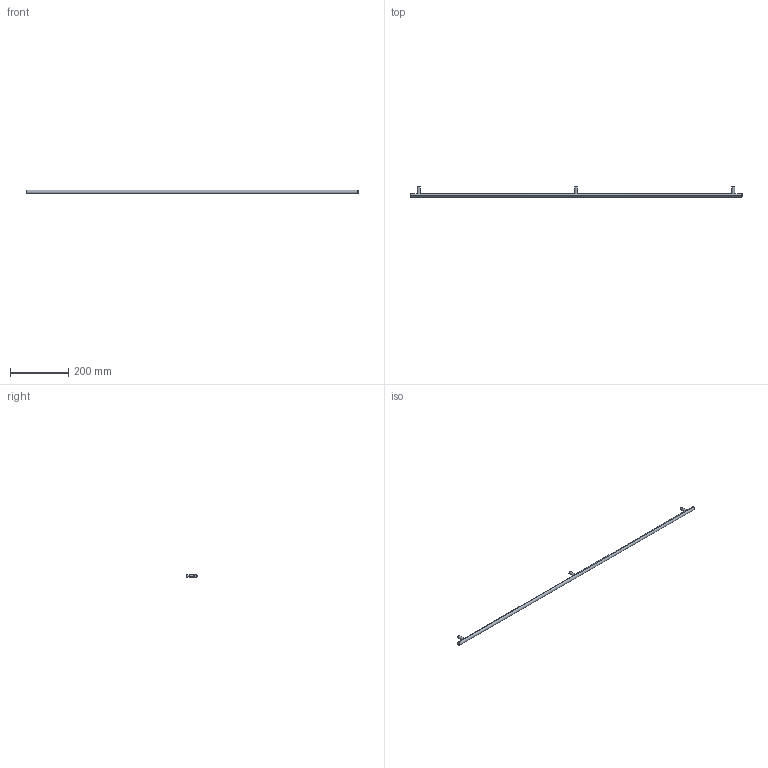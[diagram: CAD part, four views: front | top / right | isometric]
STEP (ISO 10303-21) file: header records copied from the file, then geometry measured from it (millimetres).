
FILE_DESCRIPTION( ( '' ), '1' );
FILE_NAME( 'C:/Documents and Settings/Sachin/Desktop/Sheet 10_1/stp/9070751.stp', '2013-10-22T12:27:49', ( '' ), ( '' ), ' ', ' ', ' ' );
FILE_SCHEMA( ( 'CONFIG_CONTROL_DESIGN' ) );
Length unit declared in the file: millimetre
Products named in the file (1): 1
Bounding box: 1140 x 35 x 12 mm (x, y, z)
Volume: 134169.9 mm3; surface area: 45727.2 mm2
Topology: 1 solids, 1 shells, 26 faces, 57 edges, 39 vertices
Faces by surface type: cylinder 14, plane 8, torus 4
Entity records: 966 total; most frequent: CARTESIAN_POINT 324, DIRECTION 136, ORIENTED_EDGE 114, AXIS2_PLACEMENT_3D 61, EDGE_CURVE 57, VERTEX_POINT 39, CIRCLE 34, EDGE_LOOP 32
